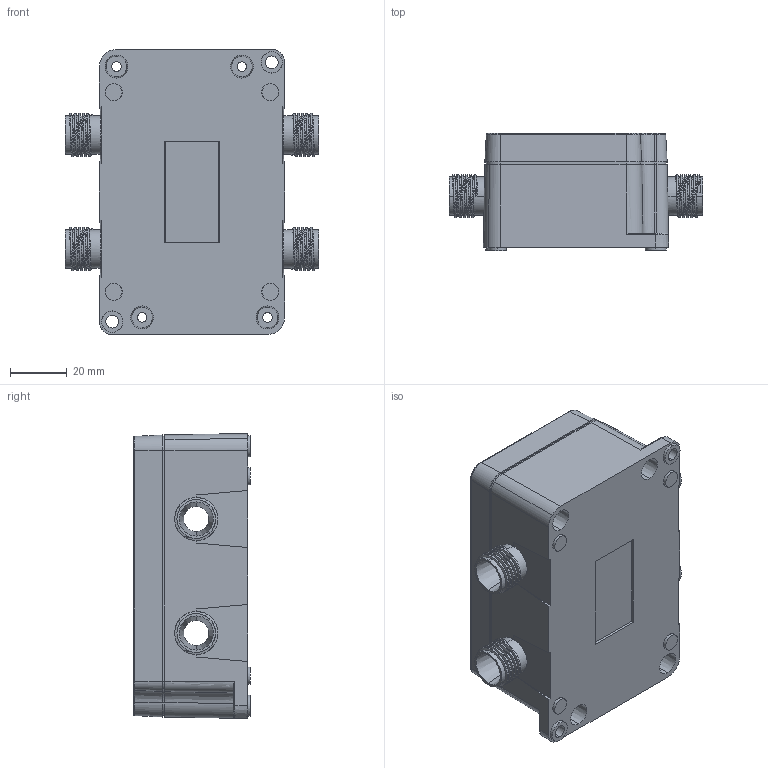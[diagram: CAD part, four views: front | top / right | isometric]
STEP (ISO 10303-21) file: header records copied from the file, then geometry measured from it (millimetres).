
FILE_DESCRIPTION (( 'STEP AP203' ), '1' );
FILE_NAME ('PB1065.STEP', '2020-06-29T09:09:20', ( '' ), ( '' ), 'SwSTEP 2.0', 'SolidWorks 2020', '' );
FILE_SCHEMA (( 'CONFIG_CONTROL_DESIGN' ));
Length unit declared in the file: millimetre
Products named in the file (1): PB1065
Bounding box: 89 x 41 x 100 mm (x, y, z)
Volume: 76965.9 mm3; surface area: 60522.2 mm2
Topology: 2 solids, 2 shells, 471 faces, 1326 edges, 902 vertices
Faces by surface type: plane 163, cylinder 160, cone 94, bspline 50, torus 4
Entity records: 22187 total; most frequent: CARTESIAN_POINT 10602, ORIENTED_EDGE 2652, DIRECTION 2100, EDGE_CURVE 1326, VERTEX_POINT 902, AXIS2_PLACEMENT_3D 748, VECTOR 604, LINE 604
